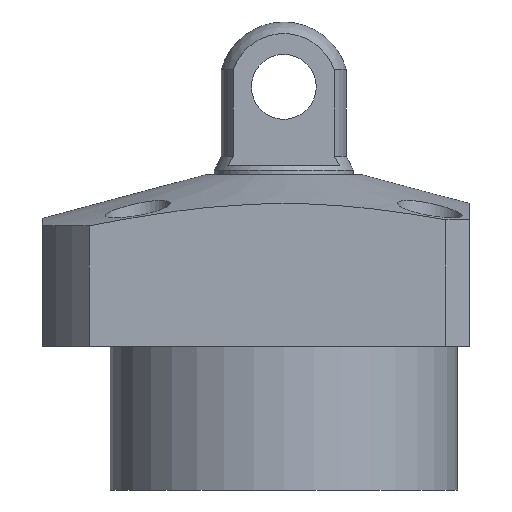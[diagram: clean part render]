
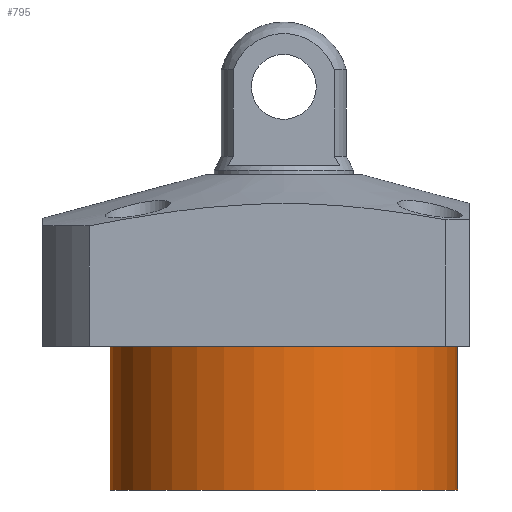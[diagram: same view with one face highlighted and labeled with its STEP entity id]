
A CAD part, front view. The second image highlights one B-rep face of the part: STEP entity #795.
In plain terms, the highlighted cylindrical face has radius 37.5 mm (diameter 75 mm), a partial arc.
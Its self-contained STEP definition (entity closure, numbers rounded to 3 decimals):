
#127 = VERTEX_POINT ( 'NONE', #320 ) ;
#137 = CARTESIAN_POINT ( 'NONE',  ( 37.5, 0., -49.5 ) ) ;
#152 = VERTEX_POINT ( 'NONE', #1996 ) ;
#170 = VERTEX_POINT ( 'NONE', #1451 ) ;
#213 = CIRCLE ( 'NONE', #1605, 37.5 ) ;
#250 = AXIS2_PLACEMENT_3D ( 'NONE', #281, #853, #2138 ) ;
#281 = CARTESIAN_POINT ( 'NONE',  ( 0., 0., -49.5 ) ) ;
#320 = CARTESIAN_POINT ( 'NONE',  ( 37.5, 0., -18.5 ) ) ;
#382 = EDGE_CURVE ( 'NONE', #823, #170, #451, .T. ) ;
#385 = CIRCLE ( 'NONE', #1199, 37.5 ) ;
#419 = CYLINDRICAL_SURFACE ( 'NONE', #250, 37.5 ) ;
#441 = ORIENTED_EDGE ( 'NONE', *, *, #382, .F. ) ;
#451 = LINE ( 'NONE', #1483, #1981 ) ;
#523 = CARTESIAN_POINT ( 'NONE',  ( -37.5, 0., -49.5 ) ) ;
#708 = ORIENTED_EDGE ( 'NONE', *, *, #1436, .T. ) ;
#736 = DIRECTION ( 'NONE',  ( 0., 0., 1. ) ) ;
#795 = ADVANCED_FACE ( 'NONE', ( #2367 ), #419, .T. ) ;
#823 = VERTEX_POINT ( 'NONE', #523 ) ;
#853 = DIRECTION ( 'NONE',  ( 0., 0., 1. ) ) ;
#870 = EDGE_LOOP ( 'NONE', ( #441, #1325, #708, #2240 ) ) ;
#888 = EDGE_CURVE ( 'NONE', #152, #823, #213, .T. ) ;
#1044 = DIRECTION ( 'NONE',  ( 0., 0., 1. ) ) ;
#1189 = LINE ( 'NONE', #137, #1315 ) ;
#1199 = AXIS2_PLACEMENT_3D ( 'NONE', #1439, #1993, #1640 ) ;
#1248 = DIRECTION ( 'NONE',  ( -1., 0., 0. ) ) ;
#1315 = VECTOR ( 'NONE', #1044, 1000. ) ;
#1325 = ORIENTED_EDGE ( 'NONE', *, *, #888, .F. ) ;
#1436 = EDGE_CURVE ( 'NONE', #152, #127, #1189, .T. ) ;
#1439 = CARTESIAN_POINT ( 'NONE',  ( 0., 0., -18.5 ) ) ;
#1451 = CARTESIAN_POINT ( 'NONE',  ( -37.5, 0., -18.5 ) ) ;
#1453 = CARTESIAN_POINT ( 'NONE',  ( 0., 0., -49.5 ) ) ;
#1483 = CARTESIAN_POINT ( 'NONE',  ( -37.5, 0., -49.5 ) ) ;
#1523 = EDGE_CURVE ( 'NONE', #127, #170, #385, .T. ) ;
#1605 = AXIS2_PLACEMENT_3D ( 'NONE', #1453, #1826, #1248 ) ;
#1640 = DIRECTION ( 'NONE',  ( 1., 0., 0. ) ) ;
#1826 = DIRECTION ( 'NONE',  ( 0., 0., -1. ) ) ;
#1981 = VECTOR ( 'NONE', #736, 1000. ) ;
#1993 = DIRECTION ( 'NONE',  ( 0., 0., -1. ) ) ;
#1996 = CARTESIAN_POINT ( 'NONE',  ( 37.5, 0., -49.5 ) ) ;
#2138 = DIRECTION ( 'NONE',  ( 1., 0., 0. ) ) ;
#2240 = ORIENTED_EDGE ( 'NONE', *, *, #1523, .T. ) ;
#2367 = FACE_OUTER_BOUND ( 'NONE', #870, .T. ) ;
